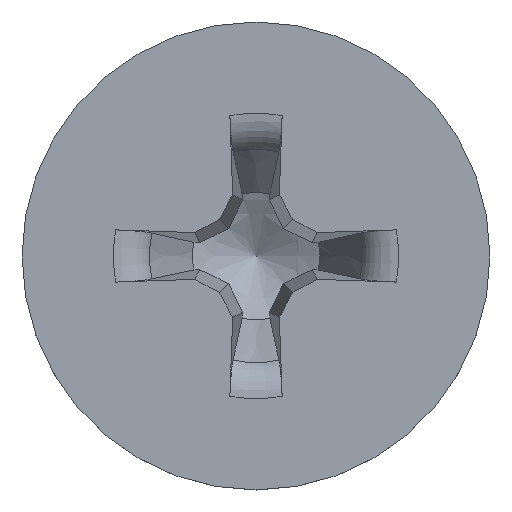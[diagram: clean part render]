
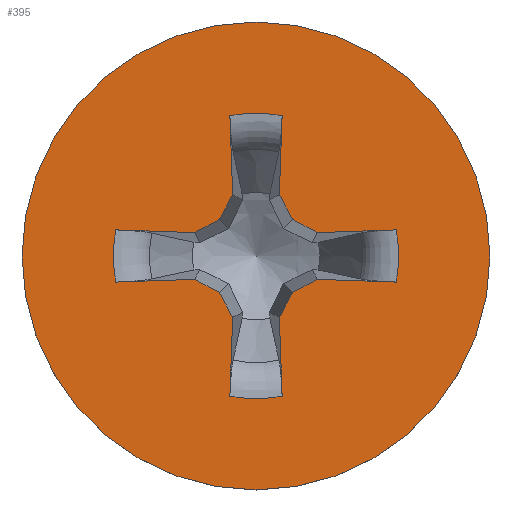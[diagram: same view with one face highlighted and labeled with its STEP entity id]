
A CAD part, top view. The second image highlights one B-rep face of the part: STEP entity #395.
In plain terms, the highlighted planar face has unit normal (0, 0, 1).
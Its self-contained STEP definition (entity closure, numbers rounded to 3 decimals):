
#124=LINE('',#4388,#236);
#125=LINE('',#4393,#237);
#126=LINE('',#4395,#238);
#127=LINE('',#4397,#239);
#128=LINE('',#4399,#240);
#129=LINE('',#4403,#241);
#130=LINE('',#4405,#242);
#131=LINE('',#4407,#243);
#132=LINE('',#4409,#244);
#133=LINE('',#4413,#245);
#134=LINE('',#4415,#246);
#135=LINE('',#4417,#247);
#136=LINE('',#4419,#248);
#137=LINE('',#4423,#249);
#138=LINE('',#4425,#250);
#139=LINE('',#4427,#251);
#236=VECTOR('',#2054,1.);
#237=VECTOR('',#2057,1.);
#238=VECTOR('',#2058,1.);
#239=VECTOR('',#2059,1.);
#240=VECTOR('',#2060,1.);
#241=VECTOR('',#2063,1.);
#242=VECTOR('',#2064,1.);
#243=VECTOR('',#2065,1.);
#244=VECTOR('',#2066,1.);
#245=VECTOR('',#2069,1.);
#246=VECTOR('',#2070,1.);
#247=VECTOR('',#2071,1.);
#248=VECTOR('',#2072,1.);
#249=VECTOR('',#2075,1.);
#250=VECTOR('',#2076,1.);
#251=VECTOR('',#2077,1.);
#349=PLANE('',#1989);
#376=FACE_BOUND('',#646,.T.);
#377=FACE_BOUND('',#647,.T.);
#395=ADVANCED_FACE('',(#376,#377),#349,.F.);
#646=EDGE_LOOP('',(#982,#983,#984,#985,#986,#987,#988,#989,#990,#991,#992,
#993,#994,#995,#996,#997,#998,#999,#1000,#1001));
#647=EDGE_LOOP('',(#1002));
#982=ORIENTED_EDGE('',*,*,#1720,.F.);
#983=ORIENTED_EDGE('',*,*,#1721,.T.);
#984=ORIENTED_EDGE('',*,*,#1722,.F.);
#985=ORIENTED_EDGE('',*,*,#1723,.F.);
#986=ORIENTED_EDGE('',*,*,#1724,.F.);
#987=ORIENTED_EDGE('',*,*,#1725,.F.);
#988=ORIENTED_EDGE('',*,*,#1726,.T.);
#989=ORIENTED_EDGE('',*,*,#1727,.F.);
#990=ORIENTED_EDGE('',*,*,#1728,.F.);
#991=ORIENTED_EDGE('',*,*,#1729,.F.);
#992=ORIENTED_EDGE('',*,*,#1730,.F.);
#993=ORIENTED_EDGE('',*,*,#1731,.T.);
#994=ORIENTED_EDGE('',*,*,#1732,.F.);
#995=ORIENTED_EDGE('',*,*,#1733,.F.);
#996=ORIENTED_EDGE('',*,*,#1734,.F.);
#997=ORIENTED_EDGE('',*,*,#1735,.F.);
#998=ORIENTED_EDGE('',*,*,#1736,.T.);
#999=ORIENTED_EDGE('',*,*,#1737,.F.);
#1000=ORIENTED_EDGE('',*,*,#1738,.F.);
#1001=ORIENTED_EDGE('',*,*,#1739,.F.);
#1002=ORIENTED_EDGE('',*,*,#1740,.F.);
#1545=VERTEX_POINT('',#4389);
#1546=VERTEX_POINT('',#4390);
#1547=VERTEX_POINT('',#4392);
#1548=VERTEX_POINT('',#4394);
#1549=VERTEX_POINT('',#4396);
#1550=VERTEX_POINT('',#4398);
#1551=VERTEX_POINT('',#4400);
#1552=VERTEX_POINT('',#4402);
#1553=VERTEX_POINT('',#4404);
#1554=VERTEX_POINT('',#4406);
#1555=VERTEX_POINT('',#4408);
#1556=VERTEX_POINT('',#4410);
#1557=VERTEX_POINT('',#4412);
#1558=VERTEX_POINT('',#4414);
#1559=VERTEX_POINT('',#4416);
#1560=VERTEX_POINT('',#4418);
#1561=VERTEX_POINT('',#4420);
#1562=VERTEX_POINT('',#4422);
#1563=VERTEX_POINT('',#4424);
#1564=VERTEX_POINT('',#4426);
#1565=VERTEX_POINT('',#4429);
#1720=EDGE_CURVE('',#1545,#1546,#124,.T.);
#1721=EDGE_CURVE('',#1545,#1547,#1956,.T.);
#1722=EDGE_CURVE('',#1548,#1547,#125,.T.);
#1723=EDGE_CURVE('',#1549,#1548,#126,.T.);
#1724=EDGE_CURVE('',#1550,#1549,#127,.T.);
#1725=EDGE_CURVE('',#1551,#1550,#128,.T.);
#1726=EDGE_CURVE('',#1551,#1552,#1957,.T.);
#1727=EDGE_CURVE('',#1553,#1552,#129,.T.);
#1728=EDGE_CURVE('',#1554,#1553,#130,.T.);
#1729=EDGE_CURVE('',#1555,#1554,#131,.T.);
#1730=EDGE_CURVE('',#1556,#1555,#132,.T.);
#1731=EDGE_CURVE('',#1556,#1557,#1958,.T.);
#1732=EDGE_CURVE('',#1558,#1557,#133,.T.);
#1733=EDGE_CURVE('',#1559,#1558,#134,.T.);
#1734=EDGE_CURVE('',#1560,#1559,#135,.T.);
#1735=EDGE_CURVE('',#1561,#1560,#136,.T.);
#1736=EDGE_CURVE('',#1561,#1562,#1959,.T.);
#1737=EDGE_CURVE('',#1563,#1562,#137,.T.);
#1738=EDGE_CURVE('',#1564,#1563,#138,.T.);
#1739=EDGE_CURVE('',#1546,#1564,#139,.T.);
#1740=EDGE_CURVE('',#1565,#1565,#1960,.T.);
#1956=CIRCLE('',#1984,4.271);
#1957=CIRCLE('',#1985,4.271);
#1958=CIRCLE('',#1986,4.271);
#1959=CIRCLE('',#1987,4.271);
#1960=CIRCLE('',#1988,7.);
#1984=AXIS2_PLACEMENT_3D('',#4391,#2055,#2056);
#1985=AXIS2_PLACEMENT_3D('',#4401,#2061,#2062);
#1986=AXIS2_PLACEMENT_3D('',#4411,#2067,#2068);
#1987=AXIS2_PLACEMENT_3D('',#4421,#2073,#2074);
#1988=AXIS2_PLACEMENT_3D('',#4428,#2078,#2079);
#1989=AXIS2_PLACEMENT_3D('',#4430,#2080,#2081);
#2054=DIRECTION('',(-0.999,-0.035,0.));
#2055=DIRECTION('',(0.,0.,-1.));
#2056=DIRECTION('',(-1.,0.,0.));
#2057=DIRECTION('',(0.999,-0.035,0.));
#2058=DIRECTION('',(0.883,0.469,0.));
#2059=DIRECTION('',(0.469,0.883,0.));
#2060=DIRECTION('',(-0.035,0.999,0.));
#2061=DIRECTION('',(0.,0.,-1.));
#2062=DIRECTION('',(-1.,0.,0.));
#2063=DIRECTION('',(-0.035,-0.999,0.));
#2064=DIRECTION('',(0.469,-0.883,0.));
#2065=DIRECTION('',(0.883,-0.469,0.));
#2066=DIRECTION('',(0.999,0.035,0.));
#2067=DIRECTION('',(0.,0.,-1.));
#2068=DIRECTION('',(-1.,0.,0.));
#2069=DIRECTION('',(-0.999,0.035,0.));
#2070=DIRECTION('',(-0.883,-0.469,0.));
#2071=DIRECTION('',(-0.469,-0.883,0.));
#2072=DIRECTION('',(0.035,-0.999,0.));
#2073=DIRECTION('',(0.,0.,-1.));
#2074=DIRECTION('',(-1.,0.,0.));
#2075=DIRECTION('',(0.035,0.999,0.));
#2076=DIRECTION('',(-0.469,0.883,0.));
#2077=DIRECTION('',(-0.883,0.469,0.));
#2078=DIRECTION('',(0.,0.,-1.));
#2079=DIRECTION('',(-1.,0.,0.));
#2080=DIRECTION('',(0.,0.,-1.));
#2081=DIRECTION('',(-1.,0.,0.));
#4388=CARTESIAN_POINT('',(-0.022,0.634,5.16));
#4389=CARTESIAN_POINT('',(4.199,0.781,5.16));
#4390=CARTESIAN_POINT('',(1.837,0.699,5.16));
#4391=CARTESIAN_POINT('',(0.,0.,5.16));
#4392=CARTESIAN_POINT('',(4.199,-0.781,5.16));
#4393=CARTESIAN_POINT('',(-0.022,-0.634,5.16));
#4394=CARTESIAN_POINT('',(1.837,-0.699,5.16));
#4395=CARTESIAN_POINT('',(0.695,-1.306,5.16));
#4396=CARTESIAN_POINT('',(1.094,-1.094,5.16));
#4397=CARTESIAN_POINT('',(1.306,-0.695,5.16));
#4398=CARTESIAN_POINT('',(0.699,-1.837,5.16));
#4399=CARTESIAN_POINT('',(0.634,0.022,5.16));
#4400=CARTESIAN_POINT('',(0.781,-4.199,5.16));
#4401=CARTESIAN_POINT('',(0.,0.,5.16));
#4402=CARTESIAN_POINT('',(-0.781,-4.199,5.16));
#4403=CARTESIAN_POINT('',(-0.634,0.022,5.16));
#4404=CARTESIAN_POINT('',(-0.699,-1.837,5.16));
#4405=CARTESIAN_POINT('',(-1.306,-0.695,5.16));
#4406=CARTESIAN_POINT('',(-1.094,-1.094,5.16));
#4407=CARTESIAN_POINT('',(-0.695,-1.306,5.16));
#4408=CARTESIAN_POINT('',(-1.837,-0.699,5.16));
#4409=CARTESIAN_POINT('',(0.022,-0.634,5.16));
#4410=CARTESIAN_POINT('',(-4.199,-0.781,5.16));
#4411=CARTESIAN_POINT('',(0.,0.,5.16));
#4412=CARTESIAN_POINT('',(-4.199,0.781,5.16));
#4413=CARTESIAN_POINT('',(0.022,0.634,5.16));
#4414=CARTESIAN_POINT('',(-1.837,0.699,5.16));
#4415=CARTESIAN_POINT('',(-0.695,1.306,5.16));
#4416=CARTESIAN_POINT('',(-1.094,1.094,5.16));
#4417=CARTESIAN_POINT('',(-1.306,0.695,5.16));
#4418=CARTESIAN_POINT('',(-0.699,1.837,5.16));
#4419=CARTESIAN_POINT('',(-0.634,-0.022,5.16));
#4420=CARTESIAN_POINT('',(-0.781,4.199,5.16));
#4421=CARTESIAN_POINT('',(0.,0.,5.16));
#4422=CARTESIAN_POINT('',(0.781,4.199,5.16));
#4423=CARTESIAN_POINT('',(0.634,-0.022,5.16));
#4424=CARTESIAN_POINT('',(0.699,1.837,5.16));
#4425=CARTESIAN_POINT('',(1.306,0.695,5.16));
#4426=CARTESIAN_POINT('',(1.094,1.094,5.16));
#4427=CARTESIAN_POINT('',(0.695,1.306,5.16));
#4428=CARTESIAN_POINT('',(0.,0.,5.16));
#4429=CARTESIAN_POINT('',(-7.,0.,5.16));
#4430=CARTESIAN_POINT('',(0.,0.,5.16));
